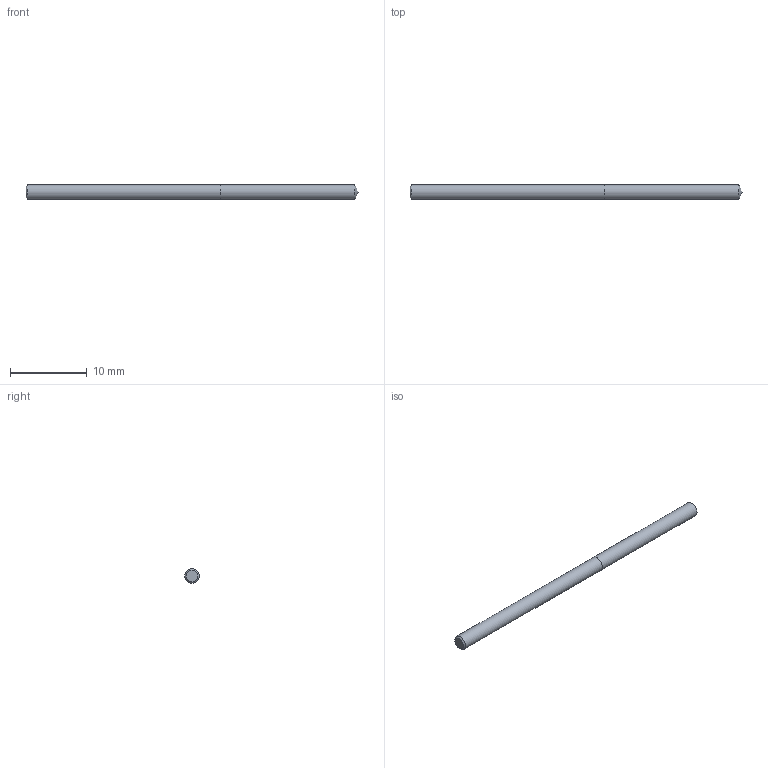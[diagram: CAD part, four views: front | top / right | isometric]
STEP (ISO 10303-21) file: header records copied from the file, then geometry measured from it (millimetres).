
FILE_DESCRIPTION (( 'STEP AP214' ), '1' );
FILE_NAME ('03-2390.STEP', '2022-06-03T07:07:39', ( 'USER' ), ( '' ), 'SwSTEP 2.0', 'SolidWorks 2018', '' );
FILE_SCHEMA (( 'AUTOMOTIVE_DESIGN' ));
Length unit declared in the file: inch
Products named in the file (1): 03-2390
Bounding box: 43.26 x 1.93 x 1.93 mm (x, y, z)
Volume: 125.7 mm3; surface area: 271.2 mm2
Topology: 2 solids, 2 shells, 7 faces, 11 edges, 7 vertices
Faces by surface type: plane 3, cylinder 2, cone 2
Full cylindrical faces by diameter (mm): 1.93 x2
Entity records: 214 total; most frequent: DIRECTION 26, CARTESIAN_POINT 18, AXIS2_PLACEMENT_3D 13, ORIENTED_EDGE 10, EDGE_LOOP 10, FACE_OUTER_BOUND 9, LENGTH_MEASURE_WITH_UNIT 7, UNCERTAINTY_MEASURE_WITH_UNIT 7
